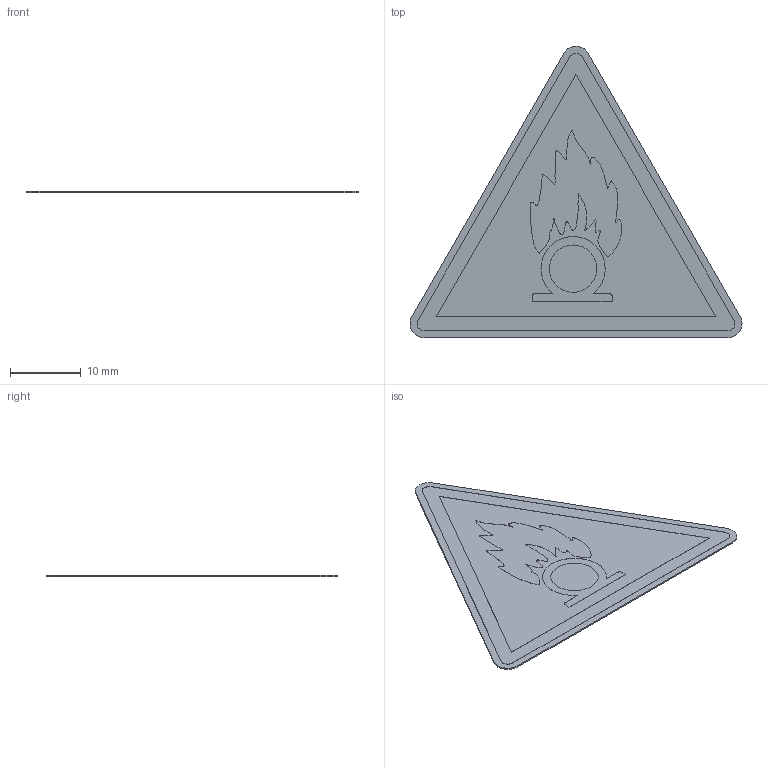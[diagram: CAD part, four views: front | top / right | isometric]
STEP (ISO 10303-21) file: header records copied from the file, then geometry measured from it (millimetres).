
FILE_DESCRIPTION (( 'STEP AP214' ), '1' );
FILE_NAME ('W028_Warnung vor brandfördernden Stoffen.STEP', '2022-02-22T08:24:06', ( '' ), ( '' ), 'SwSTEP 2.0', 'SolidWorks 2021', '' );
FILE_SCHEMA (( 'AUTOMOTIVE_DESIGN' ));
Length unit declared in the file: millimetre
Products named in the file (1): W028_Warnung vor brandfördernden Stoffen
Bounding box: 47.07 x 41.3 x 0.22 mm (x, y, z)
Volume: 221.3 mm3; surface area: 2169.8 mm2
Topology: 1 solids, 1 shells, 39 faces, 96 edges, 64 vertices
Faces by surface type: plane 21, cylinder 15, bspline 3
Entity records: 2108 total; most frequent: CARTESIAN_POINT 827, DIRECTION 194, ORIENTED_EDGE 192, EDGE_CURVE 96, AXIS2_PLACEMENT_3D 67, VERTEX_POINT 64, LINE 60, VECTOR 60
